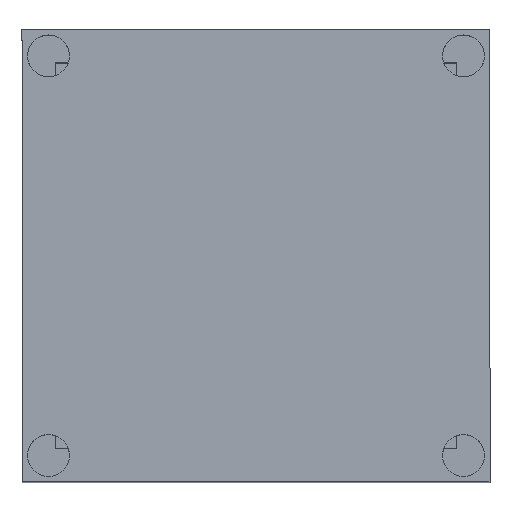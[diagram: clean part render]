
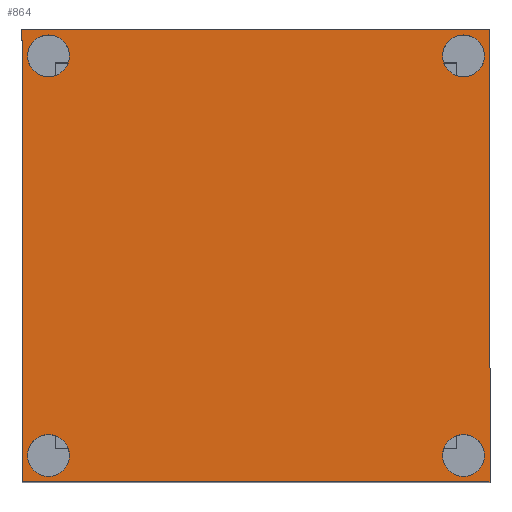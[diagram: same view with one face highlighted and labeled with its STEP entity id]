
A CAD part, top view. The second image highlights one B-rep face of the part: STEP entity #864.
In plain terms, the highlighted planar face has unit normal (0, 0, 1).
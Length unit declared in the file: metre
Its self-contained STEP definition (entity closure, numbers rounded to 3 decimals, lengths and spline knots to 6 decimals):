
#26=CIRCLE('',#938,0.0019);
#27=CIRCLE('',#939,0.0019);
#28=CIRCLE('',#940,0.0019);
#29=CIRCLE('',#941,0.0019);
#66=ORIENTED_EDGE('',*,*,#306,.F.);
#67=ORIENTED_EDGE('',*,*,#307,.F.);
#68=ORIENTED_EDGE('',*,*,#308,.F.);
#69=ORIENTED_EDGE('',*,*,#309,.F.);
#70=ORIENTED_EDGE('',*,*,#296,.F.);
#71=ORIENTED_EDGE('',*,*,#300,.T.);
#72=ORIENTED_EDGE('',*,*,#303,.T.);
#73=ORIENTED_EDGE('',*,*,#305,.F.);
#296=EDGE_CURVE('',#418,#419,#502,.T.);
#300=EDGE_CURVE('',#418,#421,#506,.T.);
#303=EDGE_CURVE('',#421,#423,#509,.T.);
#305=EDGE_CURVE('',#419,#423,#511,.T.);
#306=EDGE_CURVE('',#424,#424,#26,.T.);
#307=EDGE_CURVE('',#425,#425,#27,.T.);
#308=EDGE_CURVE('',#426,#426,#28,.T.);
#309=EDGE_CURVE('',#427,#427,#29,.T.);
#418=VERTEX_POINT('',#1258);
#419=VERTEX_POINT('',#1260);
#421=VERTEX_POINT('',#1266);
#423=VERTEX_POINT('',#1272);
#424=VERTEX_POINT('',#1279);
#425=VERTEX_POINT('',#1281);
#426=VERTEX_POINT('',#1283);
#427=VERTEX_POINT('',#1285);
#502=LINE('',#1259,#600);
#506=LINE('',#1267,#604);
#509=LINE('',#1273,#607);
#511=LINE('',#1276,#609);
#600=VECTOR('',#1012,1.);
#604=VECTOR('',#1018,1.);
#607=VECTOR('',#1023,1.);
#609=VECTOR('',#1027,1.);
#700=EDGE_LOOP('',(#66));
#701=EDGE_LOOP('',(#67));
#702=EDGE_LOOP('',(#68));
#703=EDGE_LOOP('',(#69));
#704=EDGE_LOOP('',(#70,#71,#72,#73));
#764=FACE_BOUND('',#700,.T.);
#765=FACE_BOUND('',#701,.T.);
#766=FACE_BOUND('',#702,.T.);
#767=FACE_BOUND('',#703,.T.);
#768=FACE_BOUND('',#704,.T.);
#828=PLANE('',#937);
#864=ADVANCED_FACE('',(#764,#765,#766,#767,#768),#828,.T.);
#937=AXIS2_PLACEMENT_3D('',#1277,#1028,#1029);
#938=AXIS2_PLACEMENT_3D('',#1278,#1030,#1031);
#939=AXIS2_PLACEMENT_3D('',#1280,#1032,#1033);
#940=AXIS2_PLACEMENT_3D('',#1282,#1034,#1035);
#941=AXIS2_PLACEMENT_3D('',#1284,#1036,#1037);
#1012=DIRECTION('',(-1.,0.,0.));
#1018=DIRECTION('',(0.,1.,0.));
#1023=DIRECTION('',(-1.,0.,0.));
#1027=DIRECTION('',(0.,1.,0.));
#1028=DIRECTION('',(0.,0.,1.));
#1029=DIRECTION('',(1.,0.,0.));
#1030=DIRECTION('',(0.,0.,1.));
#1031=DIRECTION('',(1.,0.,0.));
#1032=DIRECTION('',(0.,0.,1.));
#1033=DIRECTION('',(1.,0.,0.));
#1034=DIRECTION('',(0.,0.,1.));
#1035=DIRECTION('',(1.,0.,0.));
#1036=DIRECTION('',(0.,0.,1.));
#1037=DIRECTION('',(1.,0.,0.));
#1258=CARTESIAN_POINT('',(-0.004222,-0.013,0.0752));
#1259=CARTESIAN_POINT('',(-0.025422,-0.013,0.0752));
#1260=CARTESIAN_POINT('',(-0.046622,-0.013,0.0752));
#1266=CARTESIAN_POINT('',(-0.004222,0.028,0.0752));
#1267=CARTESIAN_POINT('',(-0.004222,0.0075,0.0752));
#1272=CARTESIAN_POINT('',(-0.046622,0.028,0.0752));
#1273=CARTESIAN_POINT('',(-0.025422,0.028,0.0752));
#1276=CARTESIAN_POINT('',(-0.046622,0.0075,0.0752));
#1277=CARTESIAN_POINT('',(-0.025422,0.0075,0.0752));
#1278=CARTESIAN_POINT('',(-0.044222,0.0256,0.0752));
#1279=CARTESIAN_POINT('',(-0.042322,0.0256,0.0752));
#1280=CARTESIAN_POINT('',(-0.006622,-0.0106,0.0752));
#1281=CARTESIAN_POINT('',(-0.004722,-0.0106,0.0752));
#1282=CARTESIAN_POINT('',(-0.006622,0.0256,0.0752));
#1283=CARTESIAN_POINT('',(-0.004722,0.0256,0.0752));
#1284=CARTESIAN_POINT('',(-0.044222,-0.0106,0.0752));
#1285=CARTESIAN_POINT('',(-0.042322,-0.0106,0.0752));
